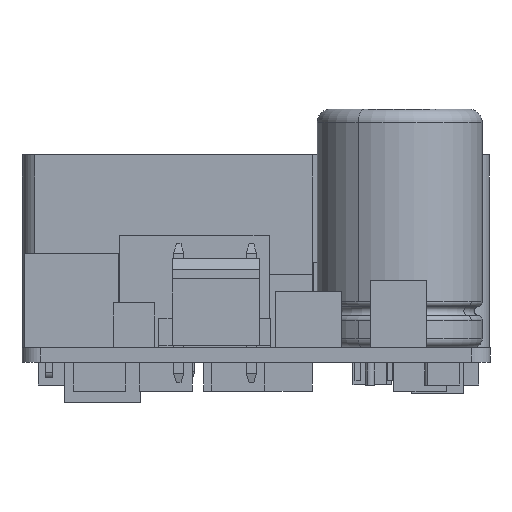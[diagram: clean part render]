
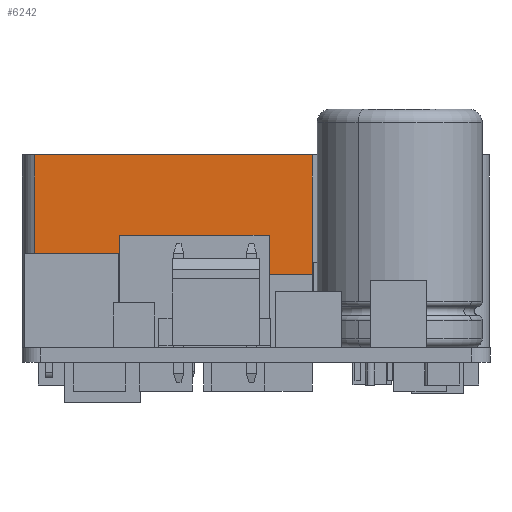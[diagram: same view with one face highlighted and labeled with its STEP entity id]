
A CAD part, left-side view. The second image highlights one B-rep face of the part: STEP entity #6242.
In plain terms, the highlighted planar face has unit normal (-1, 0, 0).
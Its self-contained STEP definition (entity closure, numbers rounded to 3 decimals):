
#6138=DIRECTION('',(0.,-1.,0.));
#6139=VECTOR('',#6138,30.252);
#6140=CARTESIAN_POINT('',(38.775,52.526,-4.));
#6141=LINE('',#6140,#6139);
#6154=DIRECTION('',(0.,0.,1.));
#6155=VECTOR('',#6154,21.);
#6156=CARTESIAN_POINT('',(38.775,22.275,-25.));
#6157=LINE('',#6156,#6155);
#6158=DIRECTION('',(0.,1.,0.));
#6159=VECTOR('',#6158,30.252);
#6160=CARTESIAN_POINT('',(38.775,22.275,-25.));
#6161=LINE('',#6160,#6159);
#6162=DIRECTION('',(0.,0.,1.));
#6163=VECTOR('',#6162,21.);
#6164=CARTESIAN_POINT('',(38.775,52.526,-25.));
#6165=LINE('',#6164,#6163);
#6182=CARTESIAN_POINT('',(38.775,22.275,-25.));
#6184=VERTEX_POINT('',#6182);
#6188=CARTESIAN_POINT('',(38.775,52.526,-25.));
#6189=VERTEX_POINT('',#6188);
#6190=CARTESIAN_POINT('',(38.775,22.275,-4.));
#6192=VERTEX_POINT('',#6190);
#6196=CARTESIAN_POINT('',(38.775,52.526,-4.));
#6197=VERTEX_POINT('',#6196);
#6229=CARTESIAN_POINT('',(38.775,52.526,-25.));
#6230=DIRECTION('',(-1.,0.,0.));
#6231=DIRECTION('',(0.,-1.,0.));
#6232=AXIS2_PLACEMENT_3D('',#6229,#6230,#6231);
#6233=PLANE('',#6232);
#6235=ORIENTED_EDGE('',*,*,#6234,.T.);
#6237=ORIENTED_EDGE('',*,*,#6236,.T.);
#6238=ORIENTED_EDGE('',*,*,#6205,.T.);
#6239=ORIENTED_EDGE('',*,*,#6221,.F.);
#6240=EDGE_LOOP('',(#6235,#6237,#6238,#6239));
#6241=FACE_OUTER_BOUND('',#6240,.F.);
#6242=ADVANCED_FACE('',(#6241),#6233,.T.);
#6205=EDGE_CURVE('',#6197,#6192,#6141,.T.);
#6221=EDGE_CURVE('',#6184,#6192,#6157,.T.);
#6234=EDGE_CURVE('',#6184,#6189,#6161,.T.);
#6236=EDGE_CURVE('',#6189,#6197,#6165,.T.);
